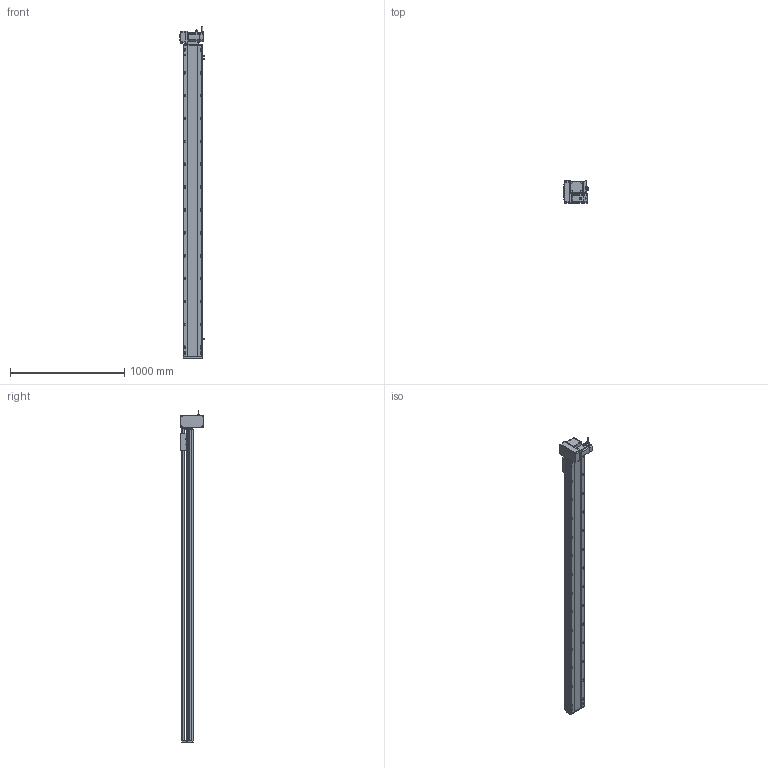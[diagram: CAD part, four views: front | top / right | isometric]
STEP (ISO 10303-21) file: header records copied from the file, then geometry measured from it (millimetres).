
FILE_DESCRIPTION (( 'STEP AP214' ), '1' );
FILE_NAME ('RTB17S-XX-2450-LM-M75-C4.STEP', '2025-12-12T00:46:38', ( '' ), ( '' ), 'SwSTEP 2.0', 'SolidWorks 2018', '' );
FILE_SCHEMA (( 'AUTOMOTIVE_DESIGN' ));
Length unit declared in the file: millimetre
Products named in the file (15): RTB17S-L-007奻裔^RTB17S-XX-XX-LM-M75-C4; RTB17S-L-001-耜醱啣^RTB17S-XX-XX-LM-M75-C4; RTB17S-L-004-賑釱^RTB17S-賑釱_RTB17S-XX-XX-LM-M75-C4; EE672^RTB17S-XX-XX-LM-M75-C4; RTH13-BL-012覜茼え俋离^RTB17S-賑釱_RTB17S-XX-XX-LM-M75-C4; RTB22S-GY-005P^RTB17S-LM-々湍釱蚾饜-750W_RTB17S-XX-XX-LM-M75-C4; RTB17-R-011菁釱^RTB17S-XX-XX-LM-M75-C4; RTB17S-賑釱^RTB17S-XX-XX-LM-M75-C4; RTB22S-GY-018P^RTB17S-LM-々湍釱蚾饜-750W_RTB17S-XX-XX-LM-M75-C4; RTB22S-GY-008-M75--萇儂啣^RTB17S-LM-々湍釱蚾饜-750W_RTB17S-XX-XX-LM-M75-C4; RTB17S-LM-々湍釱蚾饜-750W^RTB17S-XX-XX-LM-M75-C4; RTB17S-XX-2450-LM-M75-C4; 750W萇儂^RTB17S-XX-XX-LM-M75-C4; RTB17S-L-014-T20-P75--々湍釱^RTB17S-LM-々湍釱蚾饜-750W_RTB17S-XX-XX-LM-M75-C4; RTB22S-GY-017P^RTB17S-LM-々湍釱蚾饜-750W_RTB17S-XX-XX-LM-M75-C4
Assembly tree (17 placements, depth 3):
  RTB17S-XX-2450-LM-M75-C4
    RTB17-R-011菁釱^RTB17S-XX-XX-LM-M75-C4
    EE672^RTB17S-XX-XX-LM-M75-C4  x3
    RTB17S-L-001-耜醱啣^RTB17S-XX-XX-LM-M75-C4
    RTB17S-賑釱^RTB17S-XX-XX-LM-M75-C4
      RTB17S-L-004-賑釱^RTB17S-賑釱_RTB17S-XX-XX-LM-M75-C4
      RTH13-BL-012覜茼え俋离^RTB17S-賑釱_RTB17S-XX-XX-LM-M75-C4
    RTB17S-L-007奻裔^RTB17S-XX-XX-LM-M75-C4
    750W萇儂^RTB17S-XX-XX-LM-M75-C4
    RTB17S-LM-々湍釱蚾饜-750W^RTB17S-XX-XX-LM-M75-C4
      RTB17S-L-014-T20-P75--々湍釱^RTB17S-LM-々湍釱蚾饜-750W_RTB17S-XX-XX-LM-M75-C4
      RTB22S-GY-005P^RTB17S-LM-々湍釱蚾饜-750W_RTB17S-XX-XX-LM-M75-C4
      RTB22S-GY-017P^RTB17S-LM-々湍釱蚾饜-750W_RTB17S-XX-XX-LM-M75-C4  x2
      RTB22S-GY-008-M75--萇儂啣^RTB17S-LM-々湍釱蚾饜-750W_RTB17S-XX-XX-LM-M75-C4
      RTB22S-GY-018P^RTB17S-LM-々湍釱蚾饜-750W_RTB17S-XX-XX-LM-M75-C4
Bounding box: 210.4 x 200 x 2902.2 mm (x, y, z)
Volume: 21260077.2 mm3; surface area: 3853795.1 mm2
Topology: 17 solids, 17 shells, 2217 faces, 6214 edges, 4022 vertices
Faces by surface type: plane 986, cylinder 815, bspline 294, cone 110, sphere 8, torus 4
Entity records: 64246 total; most frequent: CARTESIAN_POINT 19078, ORIENTED_EDGE 9272, DIRECTION 8582, EDGE_CURVE 4636, AXIS2_PLACEMENT_3D 3042, VERTEX_POINT 3026, VECTOR 2498, LINE 2498
